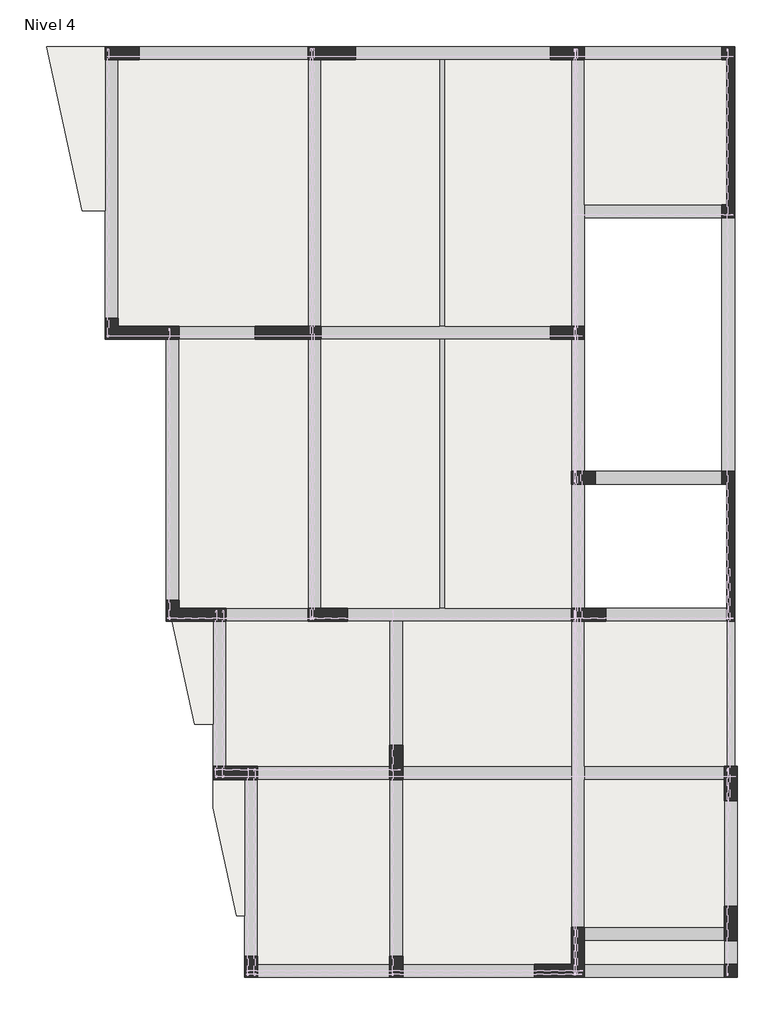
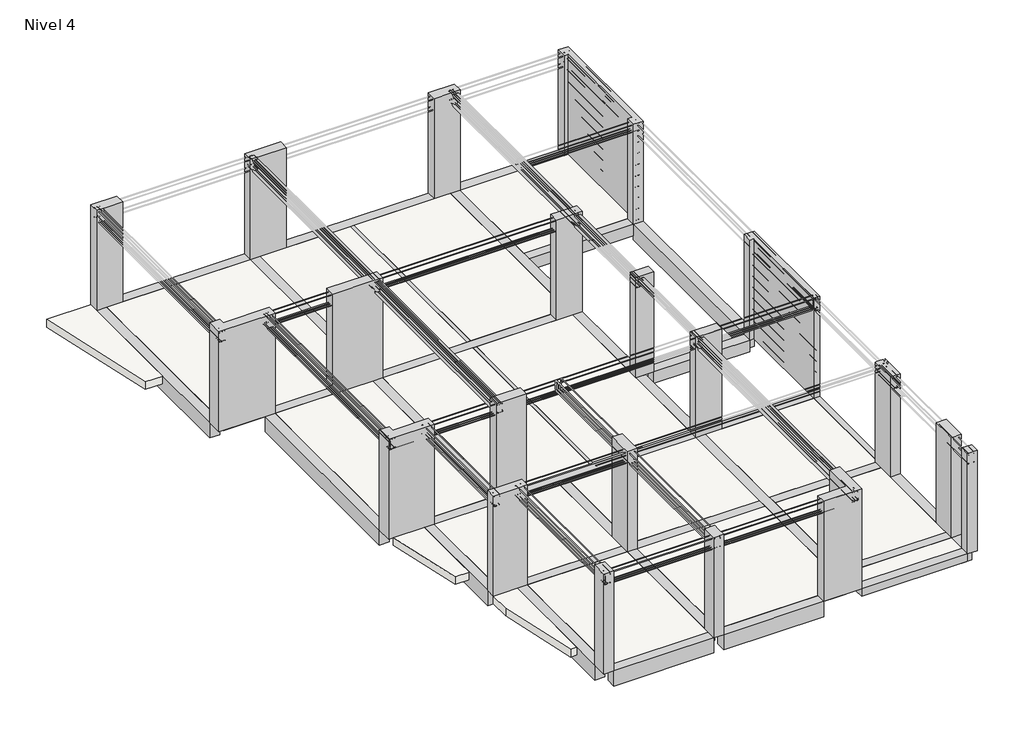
# One storey, part 1 of 3: 35 beams, 20 columns, 17 slabs.
"""IFC4 building model written with IfcOpenShell, lengths in millimetres."""

from ifc_helpers import new_model, si_unit, frame, origin, place, context, project, spatial, polyline, outline, extrude, faceted_brep, transform, mapped, element, save
from components import viga_rectangular_evg_rect_10x20cm_33a10ffb, viga_rectangular_evg_rect_10x20cm_1bd2aa7d, viga_rectangular_evg_rect_15x40_cm_c549a8b6, viga_rectangular_evg_rect_25x20_cm_6cef108b, viga_rectangular_evg_rect_25x20_cm_76eb4939, viga_rectangular_evg_rect_25x20_cm_9c3e1b78, viga_rectangular_evg_rect_25x30cm_620da6b6, viga_rectangular_evg_rect_25x30cm_a66d10a6, viga_rectangular_evg_rect_25x40_cm_2bdd148a, viga_rectangular_evg_rect_25x40_cm_41408228, viga_rectangular_evg_rect_25x40_cm_6a1f8600, viga_rectangular_evg_rect_25x40_cm_fbb3c78d, viga_rectangular_evg_rect_25x40_cm_da4bb42e, viga_rectangular_evg_rect_25x40_cm_90d5ee12, viga_rectangular_evg_rect_25x40_cm_d11aaed7, viga_rectangular_evg_rect_25x40_cm_ec8e30a6, viga_rectangular_evg_rect_25x40_cm_c621c72f, viga_rectangular_evg_rect_25x40_cm_b76ac871, viga_rectangular_evg_rect_25x40_cm_42ceb3dc, viga_rectangular_evg_rect_25x40_cm_400539a3, viga_rectangular_evg_rect_25x40_cm_b1d61e0d, viga_rectangular_evg_rect_25x40_cm_961303b6, viga_rectangular_evg_rect_25x40_cm_5bf8f6ca, viga_rectangular_evg_rect_25x40_cm_e96bc27a, viga_rectangular_evg_rect_25x40_cm_8e48b35e, viga_rectangular_evg_rect_25x40_cm_19945e5e, viga_rectangular_evg_rect_25x40_cm_a6a9dfc2, viga_rectangular_evg_rect_25x40_cm_1dd9ab3c, viga_rectangular_evg_rect_25x40_cm_08c52653, viga_rectangular_evg_rect_25x40_cm_b007f258, viga_rectangular_evg_rect_25x40_cm_85c841cc, column_0e50a8ba, column_97f66a71, column_3d70835d, column_24cc4a40, columna_estructural_rectangular_eco_rect_25x25_cm_603bb2c8, columna_estructural_u_eco_u_25x325x25x15_2f31ad44

model = new_model("IFC4")

# Units and contexts
model_context = context("Model", 3, world=origin())
ifc_project = project(units=[si_unit("LENGTHUNIT", "METRE", prefix="MILLI")], contexts=[model_context])

# Site, building, storey
site = spatial("IfcSite", under=ifc_project)
building = spatial("IfcBuilding", under=site)
storey = spatial("IfcBuildingStorey", under=building, Name="Nivel 4", Elevation=8050.0)

# Beams
placement = place(None, origin())
viga_rectangular_evg_rect_10x20cm_shape = viga_rectangular_evg_rect_10x20cm_33a10ffb(model_context)
element("IfcBeam", 1, ObjectType="Viga Rectangular : EVG_Rect 10x20cm", at=placement, inside=storey, context=model_context, shape_type="MappedRepresentation", body=[
    mapped(viga_rectangular_evg_rect_10x20cm_shape, transform((3750.0, 9550.0, 8050.0), x_axis=(0.0, 1.0, 0.0), y_axis=(-1.0, 0.0, 0.0), z_axis=(0.0, 0.0, 1.0))),
])
viga_rectangular_evg_rect_10x20cm_2_shape = viga_rectangular_evg_rect_10x20cm_1bd2aa7d(model_context)
element("IfcBeam", 2, ObjectType="Viga Rectangular : EVG_Rect 10x20cm", at=placement, inside=storey, context=model_context, shape_type="MappedRepresentation", body=[
    mapped(viga_rectangular_evg_rect_10x20cm_2_shape, transform((3750.0, 14875.0, 8050.0), x_axis=(0.0, 1.0, 0.0), y_axis=(-1.0, 0.0, 0.0), z_axis=(0.0, 0.0, 1.0))),
])
viga_rectangular_evg_rect_15x40_cm_shape = viga_rectangular_evg_rect_15x40_cm_c549a8b6(model_context)
element("IfcBeam", 3, ObjectType="Viga Rectangular : EVG_Rect 15x40 cm", at=placement, inside=storey, context=model_context, shape_type="MappedRepresentation", body=[
    mapped(viga_rectangular_evg_rect_15x40_cm_shape, transform((9225.0, 5375.0, 8050.0), x_axis=(0.0, -1.0, 0.0), y_axis=(1.0, 0.0, 0.0), z_axis=(0.0, 0.0, 1.0))),
])
viga_rectangular_evg_rect_25x20_cm_shape = viga_rectangular_evg_rect_25x20_cm_6cef108b(model_context)
element("IfcBeam", 4, ObjectType="Viga Rectangular : EVG_Rect 25x20 cm", at=placement, inside=storey, context=model_context, shape_type="MappedRepresentation", body=[
    mapped(viga_rectangular_evg_rect_25x20_cm_shape, transform((6325.0, 8175.0, 8050.0), x_axis=(0.0, 1.0, 0.0), y_axis=(-1.0, 0.0, 0.0), z_axis=(0.0, 0.0, 1.0))),
])
viga_rectangular_evg_rect_25x20_cm_2_shape = viga_rectangular_evg_rect_25x20_cm_76eb4939(model_context)
element("IfcBeam", 5, ObjectType="Viga Rectangular : EVG_Rect 25x20 cm", at=placement, inside=storey, context=model_context, shape_type="MappedRepresentation", body=[
    mapped(viga_rectangular_evg_rect_25x20_cm_2_shape, transform((4600.0, 3875.0, 8050.0), x_axis=(1.0, 0.0, 0.0), y_axis=(0.0, 1.0, 0.0), z_axis=(0.0, 0.0, 1.0))),
])
viga_rectangular_evg_rect_25x20_cm_3_shape = viga_rectangular_evg_rect_25x20_cm_9c3e1b78(model_context)
element("IfcBeam", 6, ObjectType="Viga Rectangular : EVG_Rect 25x20 cm", at=placement, inside=storey, context=model_context, shape_type="MappedRepresentation", body=[
    mapped(viga_rectangular_evg_rect_25x20_cm_3_shape, transform((7775.0, 3875.0, 8050.0), x_axis=(1.0, 0.0, 0.0), y_axis=(0.0, 1.0, 0.0), z_axis=(0.0, 0.0, 1.0))),
])
element("IfcBeam", 7, ObjectType="Viga Rectangular : EVG_Rect 25x20 cm", at=placement, inside=storey, context=model_context, shape_type="MappedRepresentation", body=[
    mapped(viga_rectangular_evg_rect_25x20_cm_3_shape, transform((7775.0, 825.0, 8050.0), x_axis=(-1.0, 0.0, 0.0), y_axis=(0.0, -1.0, 0.0), z_axis=(0.0, 0.0, 1.0))),
])
element("IfcBeam", 8, ObjectType="Viga Rectangular : EVG_Rect 25x20 cm", at=placement, inside=storey, context=model_context, shape_type="MappedRepresentation", body=[
    mapped(viga_rectangular_evg_rect_25x20_cm_3_shape, transform((7775.0, 125.0, 8050.0), x_axis=(-1.0, 0.0, 0.0), y_axis=(0.0, -1.0, 0.0), z_axis=(0.0, 0.0, 1.0))),
])
viga_rectangular_evg_rect_25x30cm_shape = viga_rectangular_evg_rect_25x30cm_620da6b6(model_context)
element("IfcBeam", 9, ObjectType="Viga Rectangular : EVG_Rect 25x30cm", at=placement, inside=storey, context=model_context, shape_type="MappedRepresentation", body=[
    mapped(viga_rectangular_evg_rect_25x30cm_shape, transform((7800.0, 9475.0, 8050.0), x_axis=(1.0, 0.0, 0.0), y_axis=(0.0, 1.0, 0.0), z_axis=(0.0, 0.0, 1.0))),
])
viga_rectangular_evg_rect_25x30cm_2_shape = viga_rectangular_evg_rect_25x30cm_a66d10a6(model_context)
element("IfcBeam", 10, ObjectType="Viga Rectangular : EVG_Rect 25x30cm", at=placement, inside=storey, context=model_context, shape_type="MappedRepresentation", body=[
    mapped(viga_rectangular_evg_rect_25x30cm_2_shape, transform((7750.0, 14525.0, 8050.0), x_axis=(-1.0, 0.0, 0.0), y_axis=(0.0, -1.0, 0.0), z_axis=(0.0, 0.0, 1.0))),
])
viga_rectangular_evg_rect_25x40_cm_shape = viga_rectangular_evg_rect_25x40_cm_2bdd148a(model_context)
element("IfcBeam", 11, ObjectType="Viga Rectangular : EVG_Rect 25x40 cm", at=placement, inside=storey, context=model_context, shape_type="MappedRepresentation", body=[
    mapped(viga_rectangular_evg_rect_25x40_cm_shape, transform((6325.0, 3675.0, 8050.0), x_axis=(0.0, 1.0, 0.0), y_axis=(-1.0, 0.0, 0.0), z_axis=(0.0, 0.0, 1.0))),
])
viga_rectangular_evg_rect_25x40_cm_2_shape = viga_rectangular_evg_rect_25x40_cm_41408228(model_context)
element("IfcBeam", 12, ObjectType="Viga Rectangular : EVG_Rect 25x40 cm", at=placement, inside=storey, context=model_context, shape_type="MappedRepresentation", body=[
    mapped(viga_rectangular_evg_rect_25x40_cm_2_shape, transform((3425.0, 12225.0, 8050.0), x_axis=(-1.0, 0.0, 0.0), y_axis=(0.0, -1.0, 0.0), z_axis=(0.0, 0.0, 1.0))),
])
viga_rectangular_evg_rect_25x40_cm_3_shape = viga_rectangular_evg_rect_25x40_cm_6a1f8600(model_context)
element("IfcBeam", 13, ObjectType="Viga Rectangular : EVG_Rect 25x40 cm", at=placement, inside=storey, context=model_context, shape_type="MappedRepresentation", body=[
    mapped(viga_rectangular_evg_rect_25x40_cm_3_shape, transform((-560.0, 12225.0, 8050.0), x_axis=(1.0, 0.0, 0.0), y_axis=(0.0, 1.0, 0.0), z_axis=(0.0, 0.0, 1.0))),
])
viga_rectangular_evg_rect_25x40_cm_4_shape = viga_rectangular_evg_rect_25x40_cm_fbb3c78d(model_context)
element("IfcBeam", 14, ObjectType="Viga Rectangular : EVG_Rect 25x40 cm", at=placement, inside=storey, context=model_context, shape_type="MappedRepresentation", body=[
    mapped(viga_rectangular_evg_rect_25x40_cm_4_shape, transform((-337.5, 17525.0, 8050.0), x_axis=(1.0, 0.0, 0.0), y_axis=(0.0, 1.0, 0.0), z_axis=(0.0, 0.0, 1.0))),
])
viga_rectangular_evg_rect_25x40_cm_5_shape = viga_rectangular_evg_rect_25x40_cm_da4bb42e(model_context)
element("IfcBeam", 15, ObjectType="Viga Rectangular : EVG_Rect 25x40 cm", at=placement, inside=storey, context=model_context, shape_type="MappedRepresentation", body=[
    mapped(viga_rectangular_evg_rect_25x40_cm_5_shape, transform((3887.5, 17525.0, 8050.0), x_axis=(1.0, 0.0, 0.0), y_axis=(0.0, 1.0, 0.0), z_axis=(0.0, 0.0, 1.0))),
])
viga_rectangular_evg_rect_25x40_cm_6_shape = viga_rectangular_evg_rect_25x40_cm_90d5ee12(model_context)
element("IfcBeam", 16, ObjectType="Viga Rectangular : EVG_Rect 25x40 cm", at=placement, inside=storey, context=model_context, shape_type="MappedRepresentation", body=[
    mapped(viga_rectangular_evg_rect_25x40_cm_6_shape, transform((1350.0, 3875.0, 8050.0), x_axis=(1.0, 0.0, 0.0), y_axis=(0.0, 1.0, 0.0), z_axis=(0.0, 0.0, 1.0))),
])
viga_rectangular_evg_rect_25x40_cm_7_shape = viga_rectangular_evg_rect_25x40_cm_d11aaed7(model_context)
element("IfcBeam", 17, ObjectType="Viga Rectangular : EVG_Rect 25x40 cm", at=placement, inside=storey, context=model_context, shape_type="MappedRepresentation", body=[
    mapped(viga_rectangular_evg_rect_25x40_cm_7_shape, transform((1500.0, 125.0, 8050.0), x_axis=(-1.0, 0.0, 0.0), y_axis=(0.0, -1.0, 0.0), z_axis=(0.0, 0.0, 1.0))),
])
element("IfcBeam", 18, ObjectType="Viga Rectangular : EVG_Rect 25x40 cm", at=placement, inside=storey, context=model_context, shape_type="MappedRepresentation", body=[
    mapped(viga_rectangular_evg_rect_25x40_cm_7_shape, transform((6325.0, 10850.0, 8050.0), x_axis=(0.0, 1.0, 0.0), y_axis=(-1.0, 0.0, 0.0), z_axis=(0.0, 0.0, 1.0))),
])
viga_rectangular_evg_rect_25x40_cm_8_shape = viga_rectangular_evg_rect_25x40_cm_ec8e30a6(model_context)
element("IfcBeam", 19, ObjectType="Viga Rectangular : EVG_Rect 25x40 cm", at=placement, inside=storey, context=model_context, shape_type="MappedRepresentation", body=[
    mapped(viga_rectangular_evg_rect_25x40_cm_8_shape, transform((4600.0, 125.0, 8050.0), x_axis=(1.0, 0.0, 0.0), y_axis=(0.0, 1.0, 0.0), z_axis=(0.0, 0.0, 1.0))),
])
viga_rectangular_evg_rect_25x40_cm_9_shape = viga_rectangular_evg_rect_25x40_cm_c621c72f(model_context)
element("IfcBeam", 20, ObjectType="Viga Rectangular : EVG_Rect 25x40 cm", at=placement, inside=storey, context=model_context, shape_type="MappedRepresentation", body=[
    mapped(viga_rectangular_evg_rect_25x40_cm_9_shape, transform((125.0, 2037.5, 8050.0), x_axis=(0.0, 1.0, 0.0), y_axis=(-1.0, 0.0, 0.0), z_axis=(0.0, 0.0, 1.0))),
])
viga_rectangular_evg_rect_25x40_cm_10_shape = viga_rectangular_evg_rect_25x40_cm_b76ac871(model_context)
element("IfcBeam", 21, ObjectType="Viga Rectangular : EVG_Rect 25x40 cm", at=placement, inside=storey, context=model_context, shape_type="MappedRepresentation", body=[
    mapped(viga_rectangular_evg_rect_25x40_cm_10_shape, transform((2875.0, 2137.5, 8050.0), x_axis=(0.0, 1.0, 0.0), y_axis=(-1.0, 0.0, 0.0), z_axis=(0.0, 0.0, 1.0))),
])
viga_rectangular_evg_rect_25x40_cm_11_shape = viga_rectangular_evg_rect_25x40_cm_42ceb3dc(model_context)
element("IfcBeam", 22, ObjectType="Viga Rectangular : EVG_Rect 25x40 cm", at=placement, inside=storey, context=model_context, shape_type="MappedRepresentation", body=[
    mapped(viga_rectangular_evg_rect_25x40_cm_11_shape, transform((-475.0, 5375.0, 8050.0), x_axis=(0.0, 1.0, 0.0), y_axis=(-1.0, 0.0, 0.0), z_axis=(0.0, 0.0, 1.0))),
])
viga_rectangular_evg_rect_25x40_cm_12_shape = viga_rectangular_evg_rect_25x40_cm_400539a3(model_context)
element("IfcBeam", 23, ObjectType="Viga Rectangular : EVG_Rect 25x40 cm", at=placement, inside=storey, context=model_context, shape_type="MappedRepresentation", body=[
    mapped(viga_rectangular_evg_rect_25x40_cm_12_shape, transform((9225.0, 575.0, 8050.0), x_axis=(0.0, 1.0, 0.0), y_axis=(-1.0, 0.0, 0.0), z_axis=(0.0, 0.0, 1.0))),
])
viga_rectangular_evg_rect_25x40_cm_13_shape = viga_rectangular_evg_rect_25x40_cm_b1d61e0d(model_context)
element("IfcBeam", 24, ObjectType="Viga Rectangular : EVG_Rect 25x40 cm", at=placement, inside=storey, context=model_context, shape_type="MappedRepresentation", body=[
    mapped(viga_rectangular_evg_rect_25x40_cm_13_shape, transform((9225.0, 2350.0, 8050.0), x_axis=(0.0, 1.0, 0.0), y_axis=(-1.0, 0.0, 0.0), z_axis=(0.0, 0.0, 1.0))),
])
viga_rectangular_evg_rect_25x40_cm_14_shape = viga_rectangular_evg_rect_25x40_cm_961303b6(model_context)
element("IfcBeam", 25, ObjectType="Viga Rectangular : EVG_Rect 25x40 cm", at=placement, inside=storey, context=model_context, shape_type="MappedRepresentation", body=[
    mapped(viga_rectangular_evg_rect_25x40_cm_14_shape, transform((7875.0, 6875.0, 8050.0), x_axis=(1.0, 0.0, 0.0), y_axis=(0.0, 1.0, 0.0), z_axis=(0.0, 0.0, 1.0))),
])
viga_rectangular_evg_rect_25x40_cm_15_shape = viga_rectangular_evg_rect_25x40_cm_5bf8f6ca(model_context)
element("IfcBeam", 26, ObjectType="Viga Rectangular : EVG_Rect 25x40 cm", at=placement, inside=storey, context=model_context, shape_type="MappedRepresentation", body=[
    mapped(viga_rectangular_evg_rect_25x40_cm_15_shape, transform((-1365.0, 9587.5, 8050.0), x_axis=(0.0, 1.0, 0.0), y_axis=(-1.0, 0.0, 0.0), z_axis=(0.0, 0.0, 1.0))),
])
viga_rectangular_evg_rect_25x40_cm_16_shape = viga_rectangular_evg_rect_25x40_cm_e96bc27a(model_context)
element("IfcBeam", 27, ObjectType="Viga Rectangular : EVG_Rect 25x40 cm", at=placement, inside=storey, context=model_context, shape_type="MappedRepresentation", body=[
    mapped(viga_rectangular_evg_rect_25x40_cm_16_shape, transform((9175.0, 11985.0, 8050.0), x_axis=(0.0, 1.0, 0.0), y_axis=(-1.0, 0.0, 0.0), z_axis=(0.0, 0.0, 1.0))),
])
viga_rectangular_evg_rect_25x40_cm_17_shape = viga_rectangular_evg_rect_25x40_cm_8e48b35e(model_context)
element("IfcBeam", 28, ObjectType="Viga Rectangular : EVG_Rect 25x40 cm", at=placement, inside=storey, context=model_context, shape_type="MappedRepresentation", body=[
    mapped(viga_rectangular_evg_rect_25x40_cm_17_shape, transform((6325.0, 14875.0, 8050.0), x_axis=(0.0, 1.0, 0.0), y_axis=(-1.0, 0.0, 0.0), z_axis=(0.0, 0.0, 1.0))),
])
element("IfcBeam", 29, ObjectType="Viga Rectangular : EVG_Rect 25x40 cm", at=placement, inside=storey, context=model_context, shape_type="MappedRepresentation", body=[
    mapped(viga_rectangular_evg_rect_25x40_cm_17_shape, transform((1325.0, 14875.0, 8050.0), x_axis=(0.0, 1.0, 0.0), y_axis=(-1.0, 0.0, 0.0), z_axis=(0.0, 0.0, 1.0))),
])
viga_rectangular_evg_rect_25x40_cm_18_shape = viga_rectangular_evg_rect_25x40_cm_19945e5e(model_context)
element("IfcBeam", 30, ObjectType="Viga Rectangular : EVG_Rect 25x40 cm", at=placement, inside=storey, context=model_context, shape_type="MappedRepresentation", body=[
    mapped(viga_rectangular_evg_rect_25x40_cm_18_shape, transform((-2525.0, 14912.5, 8050.0), x_axis=(0.0, 1.0, 0.0), y_axis=(-1.0, 0.0, 0.0), z_axis=(0.0, 0.0, 1.0))),
])
viga_rectangular_evg_rect_25x40_cm_19_shape = viga_rectangular_evg_rect_25x40_cm_a6a9dfc2(model_context)
element("IfcBeam", 31, ObjectType="Viga Rectangular : EVG_Rect 25x40 cm", at=placement, inside=storey, context=model_context, shape_type="MappedRepresentation", body=[
    mapped(viga_rectangular_evg_rect_25x40_cm_19_shape, transform((327.5, 6875.0, 8050.0), x_axis=(1.0, 0.0, 0.0), y_axis=(0.0, 1.0, 0.0), z_axis=(0.0, 0.0, 1.0))),
])
viga_rectangular_evg_rect_25x40_cm_20_shape = viga_rectangular_evg_rect_25x40_cm_1dd9ab3c(model_context)
element("IfcBeam", 32, ObjectType="Viga Rectangular : EVG_Rect 25x40 cm", at=placement, inside=storey, context=model_context, shape_type="MappedRepresentation", body=[
    mapped(viga_rectangular_evg_rect_25x40_cm_20_shape, transform((4050.0, 6875.0, 8050.0), x_axis=(-1.0, 0.0, 0.0), y_axis=(0.0, -1.0, 0.0), z_axis=(0.0, 0.0, 1.0))),
])
viga_rectangular_evg_rect_25x40_cm_21_shape = viga_rectangular_evg_rect_25x40_cm_08c52653(model_context)
element("IfcBeam", 33, ObjectType="Viga Rectangular : EVG_Rect 25x40 cm", at=placement, inside=storey, context=model_context, shape_type="MappedRepresentation", body=[
    mapped(viga_rectangular_evg_rect_25x40_cm_21_shape, transform((2875.0, 5502.6028662, 8050.0), x_axis=(0.0, 1.0, 0.0), y_axis=(-1.0, 0.0, 0.0), z_axis=(0.0, 0.0, 1.0))),
])
viga_rectangular_evg_rect_25x40_cm_22_shape = viga_rectangular_evg_rect_25x40_cm_b007f258(model_context)
element("IfcBeam", 34, ObjectType="Viga Rectangular : EVG_Rect 25x40 cm", at=placement, inside=storey, context=model_context, shape_type="MappedRepresentation", body=[
    mapped(viga_rectangular_evg_rect_25x40_cm_22_shape, transform((1325.0, 9541.2430955, 8050.0), x_axis=(0.0, 1.0, 0.0), y_axis=(-1.0, 0.0, 0.0), z_axis=(0.0, 0.0, 1.0))),
])
viga_rectangular_evg_rect_25x40_cm_23_shape = viga_rectangular_evg_rect_25x40_cm_85c841cc(model_context)
element("IfcBeam", 35, ObjectType="Viga Rectangular : EVG_Rect 25x40 cm", at=placement, inside=storey, context=model_context, shape_type="MappedRepresentation", body=[
    mapped(viga_rectangular_evg_rect_25x40_cm_23_shape, transform((7675.0, 17525.0, 8050.0), x_axis=(1.0, 0.0, 0.0), y_axis=(0.0, 1.0, 0.0), z_axis=(0.0, 0.0, 1.0))),
])

# Columns
column_shape = column_0e50a8ba(model_context)
element("IfcColumn", 36, ObjectType="Columna Estructural Ele : ECO_Ele 40x141x25", at=placement, inside=storey, context=model_context, shape_type="MappedRepresentation", body=[
    mapped(column_shape, transform((-2525.0, 12225.0, 0.0), x_axis=(1.0, 0.0, 0.0), y_axis=(0.0, 1.0, 0.0), z_axis=(0.0, 0.0, 1.0))),
])
column_2_shape = column_97f66a71(model_context)
element("IfcColumn", 37, ObjectType="Columna Estructural Ele : ECO_Ele 40x114x25", at=placement, inside=storey, context=model_context, shape_type="MappedRepresentation", body=[
    mapped(column_2_shape, transform((-1365.0, 6875.0, 0.0), x_axis=(1.0, 0.0, 0.0), y_axis=(0.0, 1.0, 0.0), z_axis=(0.0, 0.0, 1.0))),
])
column_3_shape = column_3d70835d(model_context)
element("IfcColumn", 38, ObjectType="Columna Estructural Ele : ECO_Ele 25x285x25", at=placement, inside=storey, context=model_context, shape_type="MappedRepresentation", body=[
    mapped(column_3_shape, transform((9225.0, 9475.0, 0.0), x_axis=(0.0, -1.0, 0.0), y_axis=(1.0, 0.0, 0.0), z_axis=(0.0, 0.0, 1.0))),
])
column_4_shape = column_24cc4a40(model_context)
element("IfcColumn", 39, ObjectType="Columna Estructural Ele : ECO_Ele 95x95x25", at=placement, inside=storey, context=model_context, shape_type="MappedRepresentation", body=[
    mapped(column_4_shape, transform((6325.0, 125.0, 0.0), x_axis=(0.0, 1.0, 0.0), y_axis=(-1.0, 0.0, 0.0), z_axis=(0.0, 0.0, 1.0))),
])
element("IfcColumn", 40, ObjectType="Columna Estructural Rectangular : ECO_Rect. 25x125 cm", at=placement, inside=storey, context=model_context, shape_type="Brep", body=[
    faceted_brep([(200.0, 12350.0, 8050.0), (1450.0, 12350.0, 8050.0), (1450.0, 12100.0, 8050.0), (200.0, 12100.0, 8050.0), (200.0, 12350.0, 10700.0), (1200.0, 12350.0, 10700.0), (1450.0, 12350.0, 10700.0), (1450.0, 12100.0, 10700.0), (1200.0, 12100.0, 10700.0), (200.0, 12100.0, 10700.0)], [[[0, 1, 2, 3]], [[4, 5, 6, 1, 0]], [[6, 7, 2, 1]], [[7, 8, 9, 3, 2]], [[9, 4, 0, 3]], [[4, 9, 8, 7, 6, 5]]]),
])
columna_estructural_rectangular_eco_rect_25x25_cm_shape = columna_estructural_rectangular_eco_rect_25x25_cm_603bb2c8(model_context)
element("IfcColumn", 41, ObjectType="Columna Estructural Rectangular : ECO_Rect. 25x25 cm", at=placement, inside=storey, context=model_context, shape_type="MappedRepresentation", body=[
    mapped(columna_estructural_rectangular_eco_rect_25x25_cm_shape, transform((9225.0, 125.0, 0.0), x_axis=(-1.0, 0.0, 0.0), y_axis=(0.0, -1.0, 0.0), z_axis=(0.0, 0.0, 1.0))),
])
element("IfcColumn", 42, ObjectType="Columna Estructural Rectangular : ECO_Rect. 25x40 cm", at=placement, inside=storey, context=model_context, shape_type="Brep", body=[
    faceted_brep([(0.0, 0.0, 8050.0), (0.0, 400.0, 8050.0), (250.0, 400.0, 8050.0), (250.0, 0.0, 8050.0), (0.0, 0.0, 10700.0), (0.0, 400.0, 10700.0), (250.0, 400.0, 10700.0), (250.0, 250.0, 10700.0), (250.0, 0.0, 10700.0)], [[[0, 1, 2, 3]], [[4, 5, 1, 0]], [[5, 6, 2, 1]], [[6, 7, 8, 3, 2]], [[8, 4, 0, 3]], [[4, 8, 7, 6, 5]]]),
])
element("IfcColumn", 43, ObjectType="Columna Estructural Rectangular : ECO_Rect. 25x40 cm", at=placement, inside=storey, context=model_context, shape_type="Brep", body=[
    faceted_brep([(2750.0, 0.0, 8050.0), (2750.0, 400.0, 8050.0), (3000.0, 400.0, 8050.0), (3000.0, 0.0, 8050.0), (2750.0, 0.0, 10700.0), (2750.0, 250.0, 10700.0), (2750.0, 400.0, 10700.0), (3000.0, 400.0, 10700.0), (3000.0, 250.0, 10700.0), (3000.0, 0.0, 10700.0)], [[[0, 1, 2, 3]], [[4, 5, 6, 1, 0]], [[6, 7, 2, 1]], [[7, 8, 9, 3, 2]], [[9, 4, 0, 3]], [[4, 9, 8, 7, 6, 5]]]),
])
element("IfcColumn", 44, ObjectType="Columna Estructural Rectangular : ECO_Rect. 25x45 cm", at=placement, inside=storey, context=model_context, shape_type="SweptSolid", body=[
    extrude(outline(polyline([(6200.0, 9600.0), (6650.0, 9600.0), (6650.0, 9350.0), (6200.0, 9350.0), (6200.0, 9600.0)])), frame((0.0, 0.0, 8050.0), z_axis=(0.0, 0.0, 1.0), x_axis=(1.0, 0.0, 0.0)), (0.0, 0.0, 1.0), 2650.0),
])
element("IfcColumn", 45, ObjectType="Columna Estructural Rectangular : ECO_Rect. 25x65 cm", at=placement, inside=storey, context=model_context, shape_type="Brep", body=[
    faceted_brep([(-2650.0, 17650.0, 8050.0), (-2000.0, 17650.0, 8050.0), (-2000.0, 17400.0, 8050.0), (-2650.0, 17400.0, 8050.0), (-2650.0, 17650.0, 10700.0), (-2000.0, 17650.0, 10700.0), (-2000.0, 17400.0, 10700.0), (-2400.0, 17400.0, 10700.0), (-2650.0, 17400.0, 10700.0)], [[[0, 1, 2, 3]], [[4, 5, 1, 0]], [[5, 6, 2, 1]], [[6, 7, 8, 3, 2]], [[8, 4, 0, 3]], [[4, 8, 7, 6, 5]]]),
])
element("IfcColumn", 46, ObjectType="Columna Estructural Rectangular : ECO_Rect. 25x65 cm", at=placement, inside=storey, context=model_context, shape_type="Brep", body=[
    faceted_brep([(5800.0, 17650.0, 8050.0), (6450.0, 17650.0, 8050.0), (6450.0, 17400.0, 8050.0), (5800.0, 17400.0, 8050.0), (5800.0, 17650.0, 10700.0), (6450.0, 17650.0, 10700.0), (6450.0, 17400.0, 10700.0), (6200.0, 17400.0, 10700.0), (5800.0, 17400.0, 10700.0)], [[[0, 1, 2, 3]], [[4, 5, 1, 0]], [[5, 6, 2, 1]], [[6, 7, 8, 3, 2]], [[8, 4, 0, 3]], [[4, 8, 7, 6, 5]]]),
])
element("IfcColumn", 47, ObjectType="Columna Estructural Rectangular : ECO_Rect. 25x65 cm", at=placement, inside=storey, context=model_context, shape_type="Brep", body=[
    faceted_brep([(5800.0, 12350.0, 8050.0), (6450.0, 12350.0, 8050.0), (6450.0, 12100.0, 8050.0), (5800.0, 12100.0, 8050.0), (5800.0, 12350.0, 10700.0), (6200.0, 12350.0, 10700.0), (6450.0, 12350.0, 10700.0), (6450.0, 12100.0, 10700.0), (6200.0, 12100.0, 10700.0), (5800.0, 12100.0, 10700.0)], [[[0, 1, 2, 3]], [[4, 5, 6, 1, 0]], [[6, 7, 2, 1]], [[7, 8, 9, 3, 2]], [[9, 4, 0, 3]], [[4, 9, 8, 7, 6, 5]]]),
])
element("IfcColumn", 48, ObjectType="Columna Estructural Rectangular : ECO_Rect. 25x65 cm", at=placement, inside=storey, context=model_context, shape_type="Brep", body=[
    faceted_brep([(6200.0, 7000.0, 8050.0), (6850.0, 7000.0, 8050.0), (6850.0, 6750.0, 8050.0), (6200.0, 6750.0, 8050.0), (6200.0, 7000.0, 10700.0), (6850.0, 7000.0, 10700.0), (6850.0, 6750.0, 10700.0), (6450.0, 6750.0, 10700.0), (6200.0, 6750.0, 10700.0)], [[[0, 1, 2, 3]], [[4, 5, 1, 0]], [[5, 6, 2, 1]], [[6, 7, 8, 3, 2]], [[8, 4, 0, 3]], [[4, 8, 7, 6, 5]]]),
])
element("IfcColumn", 49, ObjectType="Columna Estructural Rectangular : ECO_Rect. 25x65 cm", at=placement, inside=storey, context=model_context, shape_type="Brep", body=[
    faceted_brep([(2750.0, 3750.0, 8050.0), (2750.0, 4400.0, 8050.0), (3000.0, 4400.0, 8050.0), (3000.0, 3750.0, 8050.0), (2750.0, 3750.0, 10700.0), (2750.0, 4000.0, 10700.0), (2750.0, 4400.0, 10700.0), (3000.0, 4400.0, 10700.0), (3000.0, 4000.0, 10700.0), (3000.0, 3750.0, 10700.0)], [[[0, 1, 2, 3]], [[4, 5, 6, 1, 0]], [[6, 7, 2, 1]], [[7, 8, 9, 3, 2]], [[9, 4, 0, 3]], [[4, 9, 8, 7, 6, 5]]]),
])
element("IfcColumn", 50, ObjectType="Columna Estructural Rectangular : ECO_Rect. 25x65 cm", at=placement, inside=storey, context=model_context, shape_type="Brep", body=[
    faceted_brep([(9100.0, 3350.0, 8050.0), (9100.0, 4000.0, 8050.0), (9350.0, 4000.0, 8050.0), (9350.0, 3350.0, 8050.0), (9100.0, 3350.0, 10700.0), (9100.0, 3750.0, 10700.0), (9100.0, 4000.0, 10700.0), (9150.0, 4000.0, 10700.0), (9350.0, 4000.0, 10700.0), (9350.0, 3350.0, 10700.0)], [[[0, 1, 2, 3]], [[4, 5, 6, 1, 0]], [[6, 7, 8, 2, 1]], [[8, 9, 3, 2]], [[9, 4, 0, 3]], [[4, 9, 8, 7, 6, 5]]]),
])
element("IfcColumn", 51, ObjectType="Columna Estructural Rectangular : ECO_Rect. 25x65 cm", at=placement, inside=storey, context=model_context, shape_type="Brep", body=[
    faceted_brep([(9100.0, 700.0, 8050.0), (9100.0, 1350.0, 8050.0), (9350.0, 1350.0, 8050.0), (9350.0, 700.0, 8050.0), (9100.0, 700.0, 10700.0), (9100.0, 950.0, 10700.0), (9100.0, 1350.0, 10700.0), (9350.0, 1350.0, 10700.0), (9350.0, 700.0, 10700.0)], [[[0, 1, 2, 3]], [[4, 5, 6, 1, 0]], [[6, 7, 2, 1]], [[7, 8, 3, 2]], [[8, 4, 0, 3]], [[4, 8, 7, 6, 5]]]),
])
element("IfcColumn", 52, ObjectType="Columna Estructural Rectangular : ECO_Rect. 25x75 cm", at=placement, inside=storey, context=model_context, shape_type="Brep", body=[
    faceted_brep([(1200.0, 7000.0, 8050.0), (1950.0, 7000.0, 8050.0), (1950.0, 6750.0, 8050.0), (1200.0, 6750.0, 8050.0), (1200.0, 7000.0, 10700.0), (1450.0, 7000.0, 10700.0), (1950.0, 7000.0, 10700.0), (1950.0, 6750.0, 10700.0), (1200.0, 6750.0, 10700.0)], [[[0, 1, 2, 3]], [[4, 5, 6, 1, 0]], [[6, 7, 2, 1]], [[7, 8, 3, 2]], [[8, 4, 0, 3]], [[4, 8, 7, 6, 5]]]),
])
element("IfcColumn", 53, ObjectType="Columna Estructural Rectangular : ECO_Rect. 25x85 cm", at=placement, inside=storey, context=model_context, shape_type="Brep", body=[
    faceted_brep([(-600.0, 4000.0, 8050.0), (250.0, 4000.0, 8050.0), (250.0, 3750.0, 8050.0), (-600.0, 3750.0, 8050.0), (-600.0, 4000.0, 10700.0), (-350.0, 4000.0, 10700.0), (250.0, 4000.0, 10700.0), (250.0, 3750.0, 10700.0), (0.0, 3750.0, 10700.0), (-600.0, 3750.0, 10700.0), (-600.0, 3750.0, 10500.0)], [[[0, 1, 2, 3]], [[4, 5, 6, 1, 0]], [[6, 7, 2, 1]], [[7, 8, 9, 10, 3, 2]], [[9, 4, 0, 3, 10]], [[4, 9, 8, 7, 6, 5]]]),
])
element("IfcColumn", 54, ObjectType="Columna Estructural Rectangular : ECO_Rect. 25x90 cm", at=placement, inside=storey, context=model_context, shape_type="Brep", body=[
    faceted_brep([(1200.0, 17650.0, 8050.0), (2100.0, 17650.0, 8050.0), (2100.0, 17400.0, 8050.0), (1200.0, 17400.0, 8050.0), (1200.0, 17650.0, 10700.0), (2100.0, 17650.0, 10700.0), (2100.0, 17400.0, 10700.0), (1450.0, 17400.0, 10700.0), (1200.0, 17400.0, 10700.0)], [[[0, 1, 2, 3]], [[4, 5, 1, 0]], [[5, 6, 2, 1]], [[6, 7, 8, 3, 2]], [[8, 4, 0, 3]], [[4, 8, 7, 6, 5]]]),
])
columna_estructural_u_eco_u_25x325x25x15_shape = columna_estructural_u_eco_u_25x325x25x15_2f31ad44(model_context)
element("IfcColumn", 55, ObjectType="Columna Estructural U : ECO_U 25x325x25x15", at=placement, inside=storey, context=model_context, shape_type="MappedRepresentation", body=[
    mapped(columna_estructural_u_eco_u_25x325x25x15_shape, transform((9225.0, 16025.0, 0.0), x_axis=(0.0, 1.0, 0.0), y_axis=(-1.0, 0.0, 0.0), z_axis=(0.0, 0.0, 1.0))),
])

# Slabs
element("IfcSlab", 56, ObjectType="ELA_Losa Aligerada e=20 cm", at=placement, inside=storey, context=model_context, shape_type="Brep", body=[
    faceted_brep([(1200.0, 17400.0, 7850.0), (1200.0, 12350.0, 7850.0), (-2400.0, 12350.0, 7850.0), (-2400.0, 17400.0, 7850.0), (1200.0, 17400.0, 8050.0), (-2000.0, 17400.0, 8050.0), (-2400.0, 17400.0, 8050.0), (-2400.0, 12350.0, 8050.0), (200.0, 12350.0, 8050.0), (1200.0, 12350.0, 8050.0)], [[[0, 1, 2, 3]], [[4, 5, 6, 7, 8, 9]], [[1, 0, 4, 9]], [[2, 1, 9, 8, 7]], [[3, 2, 7, 6]], [[0, 3, 6, 5, 4]]]),
])
element("IfcSlab", 57, ObjectType="ELA_Losa Aligerada e=20 cm", at=placement, inside=storey, context=model_context, shape_type="Brep", body=[
    faceted_brep([(3700.0, 17400.0, 7850.0), (3700.0, 12350.0, 7850.0), (1450.0, 12350.0, 7850.0), (1450.0, 17400.0, 7850.0), (3700.0, 17400.0, 8050.0), (2100.0, 17400.0, 8050.0), (1450.0, 17400.0, 8050.0), (1450.0, 12350.0, 8050.0), (3700.0, 12350.0, 8050.0)], [[[0, 1, 2, 3]], [[4, 5, 6, 7, 8]], [[1, 0, 4, 8]], [[2, 1, 8, 7]], [[3, 2, 7, 6]], [[0, 3, 6, 5, 4]]]),
])
element("IfcSlab", 58, ObjectType="ELA_Losa Aligerada e=20 cm", at=placement, inside=storey, context=model_context, shape_type="Brep", body=[
    faceted_brep([(6200.0, 17400.0, 7850.0), (6200.0, 12350.0, 7850.0), (3800.0, 12350.0, 7850.0), (3800.0, 17400.0, 7850.0), (6200.0, 17400.0, 8050.0), (5800.0, 17400.0, 8050.0), (3800.0, 17400.0, 8050.0), (3800.0, 12350.0, 8050.0), (5800.0, 12350.0, 8050.0), (6200.0, 12350.0, 8050.0)], [[[0, 1, 2, 3]], [[4, 5, 6, 7, 8, 9]], [[1, 0, 4, 9]], [[2, 1, 9, 8, 7]], [[3, 2, 7, 6]], [[0, 3, 6, 5, 4]]]),
])
element("IfcSlab", 59, ObjectType="ELA_Losa Aligerada e=20 cm", at=placement, inside=storey, context=model_context, shape_type="SweptSolid", body=[
    extrude(outline(polyline([(9150.0, 17400.0), (9150.0, 14650.0), (6450.0, 14650.0), (6450.0, 17400.0), (9150.0, 17400.0)])), frame((0.0, 0.0, 7850.0), z_axis=(0.0, 0.0, 1.0), x_axis=(1.0, 0.0, 0.0)), (0.0, 0.0, 1.0), 200.0),
])
element("IfcSlab", 60, ObjectType="ELA_Losa Aligerada e=20 cm", at=placement, inside=storey, context=model_context, shape_type="Brep", body=[
    faceted_brep([(1200.0, 12100.0, 7850.0), (1200.0, 7000.0, 7850.0), (-1240.0, 7000.0, 7850.0), (-1240.0, 12100.0, 7850.0), (1200.0, 12100.0, 8050.0), (200.0, 12100.0, 8050.0), (-1240.0, 12100.0, 8050.0), (-1240.0, 7000.0, 8050.0), (1200.0, 7000.0, 8050.0)], [[[0, 1, 2, 3]], [[4, 5, 6, 7, 8]], [[1, 0, 4, 8]], [[2, 1, 8, 7]], [[3, 2, 7, 6]], [[0, 3, 6, 5, 4]]]),
])
element("IfcSlab", 61, ObjectType="ELA_Losa Aligerada e=20 cm", at=placement, inside=storey, context=model_context, shape_type="Brep", body=[
    faceted_brep([(3700.0, 12100.0, 7850.0), (3700.0, 7000.0, 7850.0), (1450.0, 7000.0, 7850.0), (1450.0, 12100.0, 7850.0), (3700.0, 12100.0, 8050.0), (1450.0, 12100.0, 8050.0), (1450.0, 7000.0, 8050.0), (1950.0, 7000.0, 8050.0), (3700.0, 7000.0, 8050.0)], [[[0, 1, 2, 3]], [[4, 5, 6, 7, 8]], [[1, 0, 4, 8]], [[2, 1, 8, 7, 6]], [[3, 2, 6, 5]], [[0, 3, 5, 4]]]),
])
element("IfcSlab", 62, ObjectType="ELA_Losa Aligerada e=20 cm", at=placement, inside=storey, context=model_context, shape_type="Brep", body=[
    faceted_brep([(6200.0, 12100.0, 7850.0), (6200.0, 7000.0, 7850.0), (3800.0, 7000.0, 7850.0), (3800.0, 12100.0, 7850.0), (6200.0, 12100.0, 8050.0), (5800.0, 12100.0, 8050.0), (3800.0, 12100.0, 8050.0), (3800.0, 7000.0, 8050.0), (6200.0, 7000.0, 8050.0), (6200.0, 9350.0, 8050.0), (6200.0, 9600.0, 8050.0)], [[[0, 1, 2, 3]], [[4, 5, 6, 7, 8, 9, 10]], [[1, 0, 4, 10, 9, 8]], [[2, 1, 8, 7]], [[3, 2, 7, 6]], [[0, 3, 6, 5, 4]]]),
])
element("IfcSlab", 63, ObjectType="ELA_Losa Aligerada e=20 cm", at=placement, inside=storey, context=model_context, shape_type="Brep", body=[
    faceted_brep([(2750.0, 6750.0, 7850.0), (2750.0, 4000.0, 7850.0), (-350.0, 4000.0, 7850.0), (-350.0, 6750.0, 7850.0), (2750.0, 6750.0, 8050.0), (1950.0, 6750.0, 8050.0), (1200.0, 6750.0, 8050.0), (-350.0, 6750.0, 8050.0), (-350.0, 4000.0, 8050.0), (250.0, 4000.0, 8050.0), (2750.0, 4000.0, 8050.0), (2750.0, 4400.0, 8050.0)], [[[0, 1, 2, 3]], [[4, 5, 6, 7, 8, 9, 10, 11]], [[1, 0, 4, 11, 10]], [[2, 1, 10, 9, 8]], [[3, 2, 8, 7]], [[0, 3, 7, 6, 5, 4]]]),
])
element("IfcSlab", 64, ObjectType="ELA_Losa Aligerada e=20 cm", at=placement, inside=storey, context=model_context, shape_type="Brep", body=[
    faceted_brep([(6200.0, 6750.0, 7850.0), (6200.0, 4000.0, 7850.0), (3000.0, 4000.0, 7850.0), (3000.0, 6750.0, 7850.0), (6200.0, 6750.0, 8050.0), (3000.0, 6750.0, 8050.0), (3000.0, 4400.0, 8050.0), (3000.0, 4000.0, 8050.0), (6200.0, 4000.0, 8050.0)], [[[0, 1, 2, 3]], [[4, 5, 6, 7, 8]], [[1, 0, 4, 8]], [[2, 1, 8, 7]], [[3, 2, 7, 6, 5]], [[0, 3, 5, 4]]]),
])
element("IfcSlab", 65, ObjectType="ELA_Losa Aligerada e=20 cm", at=placement, inside=storey, context=model_context, shape_type="Brep", body=[
    faceted_brep([(9150.0, 6750.0, 7850.0), (9150.0, 4000.0, 7850.0), (6450.0, 4000.0, 7850.0), (6450.0, 6750.0, 7850.0), (9150.0, 6750.0, 8050.0), (6850.0, 6750.0, 8050.0), (6450.0, 6750.0, 8050.0), (6450.0, 4000.0, 8050.0), (9100.0, 4000.0, 8050.0), (9150.0, 4000.0, 8050.0)], [[[0, 1, 2, 3]], [[4, 5, 6, 7, 8, 9]], [[1, 0, 4, 9]], [[2, 1, 9, 8, 7]], [[3, 2, 7, 6]], [[0, 3, 6, 5, 4]]]),
])
element("IfcSlab", 66, ObjectType="ELA_Losa Aligerada e=20 cm", at=placement, inside=storey, context=model_context, shape_type="Brep", body=[
    faceted_brep([(2750.0, 3750.0, 7850.0), (2750.0, 250.0, 7850.0), (250.0, 250.0, 7850.0), (250.0, 3750.0, 7850.0), (2750.0, 3750.0, 8050.0), (250.0, 3750.0, 8050.0), (250.0, 400.0, 8050.0), (250.0, 250.0, 8050.0), (2750.0, 250.0, 8050.0), (2750.0, 400.0, 8050.0)], [[[0, 1, 2, 3]], [[4, 5, 6, 7, 8, 9]], [[1, 0, 4, 9, 8]], [[2, 1, 8, 7]], [[3, 2, 7, 6, 5]], [[0, 3, 5, 4]]]),
])
element("IfcSlab", 67, ObjectType="ELA_Losa Aligerada e=20 cm", at=placement, inside=storey, context=model_context, shape_type="Brep", body=[
    faceted_brep([(6200.0, 3750.0, 7850.0), (6200.0, 250.0, 7850.0), (3000.0, 250.0, 7850.0), (3000.0, 3750.0, 7850.0), (6200.0, 3750.0, 8050.0), (3000.0, 3750.0, 8050.0), (3000.0, 400.0, 8050.0), (3000.0, 250.0, 8050.0), (6200.0, 250.0, 8050.0)], [[[0, 1, 2, 3]], [[4, 5, 6, 7, 8]], [[1, 0, 4, 8]], [[2, 1, 8, 7]], [[3, 2, 7, 6, 5]], [[0, 3, 5, 4]]]),
])
element("IfcSlab", 68, ObjectType="ELA_Losa Aligerada e=20 cm", at=placement, inside=storey, context=model_context, shape_type="Brep", body=[
    faceted_brep([(9100.0, 3750.0, 7850.0), (9100.0, 950.0, 7850.0), (6450.0, 950.0, 7850.0), (6450.0, 3750.0, 7850.0), (9100.0, 3750.0, 8050.0), (6450.0, 3750.0, 8050.0), (6450.0, 950.0, 8050.0), (9100.0, 950.0, 8050.0), (9100.0, 1350.0, 8050.0), (9100.0, 3350.0, 8050.0)], [[[0, 1, 2, 3]], [[4, 5, 6, 7, 8, 9]], [[1, 0, 4, 9, 8, 7]], [[2, 1, 7, 6]], [[3, 2, 6, 5]], [[0, 3, 5, 4]]]),
])
element("IfcSlab", 69, ObjectType="ELA_Losa Aligerada e=20 cm", at=placement, inside=storey, context=model_context, shape_type="SweptSolid", body=[
    extrude(outline(polyline([(0.0, 1170.0), (-156.044349, 1170.0), (-600.0, 3217.7024215), (-600.0, 3750.0), (0.0, 3750.0), (0.0, 1170.0)])), frame((0.0, 0.0, 7850.0), z_axis=(0.0, 0.0, 1.0), x_axis=(1.0, 0.0, 0.0)), (0.0, 0.0, 1.0), 200.0),
])
element("IfcSlab", 70, ObjectType="ELA_Losa Aligerada e=20 cm", at=placement, inside=storey, context=model_context, shape_type="SweptSolid", body=[
    extrude(outline(polyline([(-1373.6077071, 6750.0), (-600.0, 6750.0), (-600.0, 4800.7253635), (-951.964334, 4800.7253635), (-1373.6077071, 6750.0)])), frame((0.0, 0.0, 7850.0), z_axis=(0.0, 0.0, 1.0), x_axis=(1.0, 0.0, 0.0)), (0.0, 0.0, 1.0), 200.0),
])
element("IfcSlab", 71, ObjectType="ELA_Losa Aligerada e=20 cm", at=placement, inside=storey, context=model_context, shape_type="SweptSolid", body=[
    extrude(outline(polyline([(9100.0, 700.0), (9100.0, 250.0), (6450.0, 250.0), (6450.0, 700.0), (9100.0, 700.0)])), frame((0.0, 0.0, 7850.0), z_axis=(0.0, 0.0, 1.0), x_axis=(1.0, 0.0, 0.0)), (0.0, 0.0, 1.0), 200.0),
])
element("IfcSlab", 72, ObjectType="ELA_Losa Aligerada e=20 cm", at=placement, inside=storey, context=model_context, shape_type="Brep", body=[
    faceted_brep([(-2650.0, 17650.0, 7850.0), (-2650.0, 14540.0, 7850.0), (-3086.3794384, 14540.0, 7850.0), (-3759.0967999, 17650.0, 7850.0), (-2650.0, 17650.0, 8050.0), (-3759.0967999, 17650.0, 8050.0), (-3086.3794384, 14540.0, 8050.0), (-2650.0, 14540.0, 8050.0), (-2650.0, 17400.0, 8050.0)], [[[0, 1, 2, 3]], [[4, 5, 6, 7, 8]], [[1, 0, 4, 8, 7]], [[2, 1, 7, 6]], [[3, 2, 6, 5]], [[0, 3, 5, 4]]]),
])

save(model, "model.ifc")
